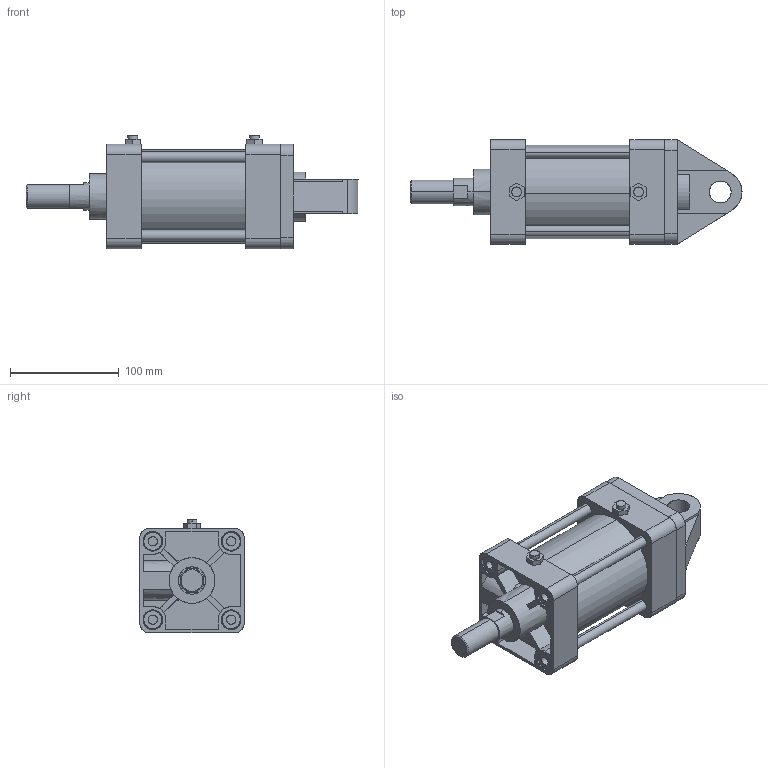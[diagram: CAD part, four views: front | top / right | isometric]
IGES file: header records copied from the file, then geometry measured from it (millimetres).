
Start section: SolidWorks IGES file using analytic representation for surfaces
Global section: file name: C:\Users\Toshiba\Desktop\KG2-80-50-C.IGS; native system: SolidWorks 2014; preprocessor: SolidWorks 2014; author: Toshiba; date: 160401.161927; units: millimetre
Bounding box: 305 x 96 x 104.3 mm (x, y, z)
Surface area: 204695 mm2 (no closed solid volume)
Topology: 0 solids, 0 shells, 348 faces, 5416 edges, 5412 vertices
Faces by surface type: bspline 186, revolution 162
